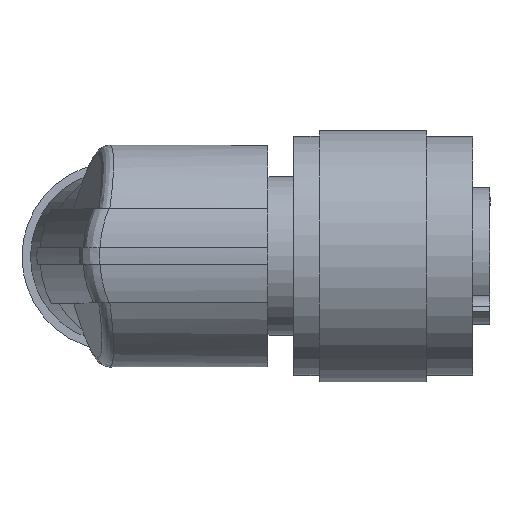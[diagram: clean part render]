
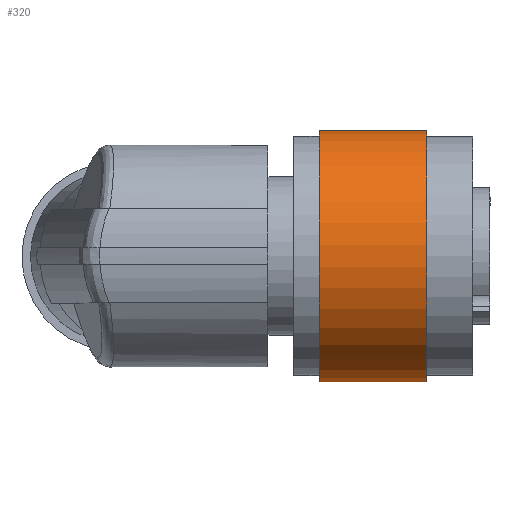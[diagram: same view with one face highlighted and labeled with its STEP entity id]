
A CAD part, top view. The second image highlights one B-rep face of the part: STEP entity #320.
In plain terms, the highlighted cylindrical face has radius 7.4 mm (diameter 14.8 mm), a full revolution.
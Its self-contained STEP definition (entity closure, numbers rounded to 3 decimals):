
#320 = ADVANCED_FACE( '', ( #772, #773 ), #774, .T. );
#772 = FACE_OUTER_BOUND( '', #1993, .T. );
#773 = FACE_OUTER_BOUND( '', #1994, .T. );
#774 = CYLINDRICAL_SURFACE( '', #1995, 7.4 );
#1993 = EDGE_LOOP( '', ( #3731 ) );
#1994 = EDGE_LOOP( '', ( #3732 ) );
#1995 = AXIS2_PLACEMENT_3D( '', #3733, #3734, #3735 );
#3731 = ORIENTED_EDGE( '', *, *, #5139, .F. );
#3732 = ORIENTED_EDGE( '', *, *, #5140, .T. );
#3733 = CARTESIAN_POINT( '', ( 2.5, 0., 0. ) );
#3734 = DIRECTION( '', ( -1., 0., 0. ) );
#3735 = DIRECTION( '', ( 0., -0.707, -0.707 ) );
#5139 = EDGE_CURVE( '', #5949, #5949, #5950, .T. );
#5140 = EDGE_CURVE( '', #5951, #5951, #5952, .T. );
#5949 = VERTEX_POINT( '', #8903 );
#5950 = CIRCLE( '', #8904, 7.4 );
#5951 = VERTEX_POINT( '', #8905 );
#5952 = CIRCLE( '', #8906, 7.4 );
#8903 = CARTESIAN_POINT( '', ( 5.3, -5.233, -5.233 ) );
#8904 = AXIS2_PLACEMENT_3D( '', #10611, #10612, #10613 );
#8905 = CARTESIAN_POINT( '', ( -1., -5.233, -5.233 ) );
#8906 = AXIS2_PLACEMENT_3D( '', #10614, #10615, #10616 );
#10611 = CARTESIAN_POINT( '', ( 5.3, 0., 0. ) );
#10612 = DIRECTION( '', ( 1., 0., 0. ) );
#10613 = DIRECTION( '', ( 0., -0.707, -0.707 ) );
#10614 = CARTESIAN_POINT( '', ( -1., 0., 0. ) );
#10615 = DIRECTION( '', ( 1., 0., 0. ) );
#10616 = DIRECTION( '', ( 0., -0.707, -0.707 ) );
